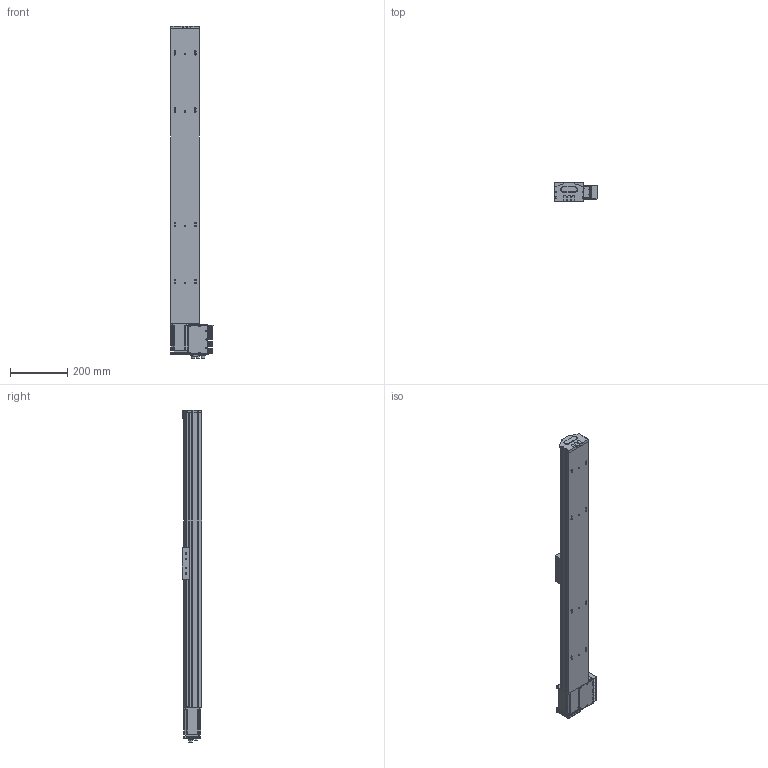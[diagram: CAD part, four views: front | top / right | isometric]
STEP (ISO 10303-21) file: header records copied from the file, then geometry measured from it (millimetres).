
FILE_DESCRIPTION (( 'STEP AP203' ), '1' );
FILE_NAME ('S 10 TSH MD S800.STEP', '2012-08-29T13:51:32', ( 'Conseil Régional Haute-Normandie' ), ( 'Conseil Régional Haute-Normandie' ), 'SwSTEP 2.0', 'SolidWorks 2010', '' );
FILE_SCHEMA (( 'CONFIG_CONTROL_DESIGN' ));
Length unit declared in the file: millimetre
Products named in the file (23): Sub D 9cts 90_X2_00B_X0__3; embout_modifié; T_X2_00F4_X0_le lat_X2_00E9_X0_rale_5; S 10 TSH MD S800; axe1030_Default; palette tbn2; piece_plastique remplieTSH_Default; remplir_Default; Pièce2_Default; Assem1_7; T_X2_00F4_X0_le contre le moteur_5; BU41 Carte Alimentation P05_3; Colonnette_3; BU45 Carte d''axe A11_5; Moteur 60BLDC90A_3; Couvercle_3; T_X2_00F4_X0_le fond_3; Connecteur rond D10 3cts_5; Connecteur rond D12 4cts_5; Radiateur profil_X2_00E9_X0_ 100x25_3; Colonnette ronde_3; T_X2_00F4_X0_le Arri_X2_00E8_X0_re_5; Vis TF 3 torkx_1_1
Assembly tree (47 placements, depth 3):
  S 10 TSH MD S800
    Assem1_7
      Vis TF 3 torkx_1_1  x21
      Colonnette_3  x2
      Connecteur rond D10 3cts_5  x2
      Connecteur rond D12 4cts_5
      Moteur 60BLDC90A_3
      T_X2_00F4_X0_le fond_3
      T_X2_00F4_X0_le lat_X2_00E9_X0_rale_5  x2
      BU41 Carte Alimentation P05_3
      T_X2_00F4_X0_le Arri_X2_00E8_X0_re_5
      Radiateur profil_X2_00E9_X0_ 100x25_3
      Couvercle_3
      Sub D 9cts 90_X2_00B_X0__3
      T_X2_00F4_X0_le contre le moteur_5
      BU45 Carte d''axe A11_5
      Colonnette ronde_3
    piece_plastique remplieTSH_Default
      embout_modifié
      remplir_Default  x3
      Pièce2_Default
    axe1030_Default
    palette tbn2
Bounding box: 148.26 x 66.75 x 1161.6 mm (x, y, z)
Volume: 6024824.9 mm3; surface area: 726401.7 mm2
Topology: 45 solids, 45 shells, 1726 faces, 4403 edges, 2866 vertices
Faces by surface type: plane 799, cylinder 774, cone 150, torus 3
Entity records: 36182 total; most frequent: CARTESIAN_POINT 6123, DIRECTION 5908, ORIENTED_EDGE 5382, EDGE_CURVE 2691, AXIS2_PLACEMENT_3D 2164, VERTEX_POINT 1766, VECTOR 1580, LINE 1580
